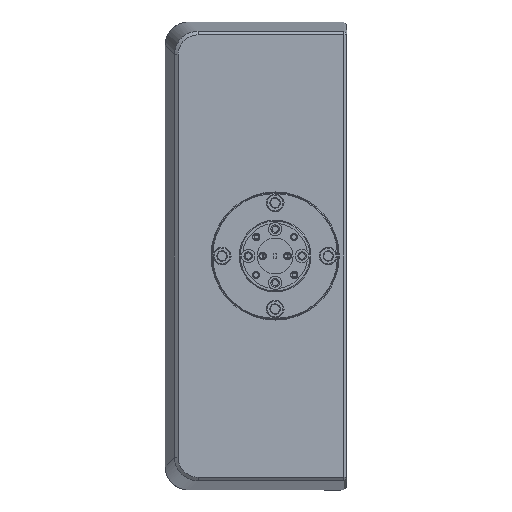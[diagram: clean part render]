
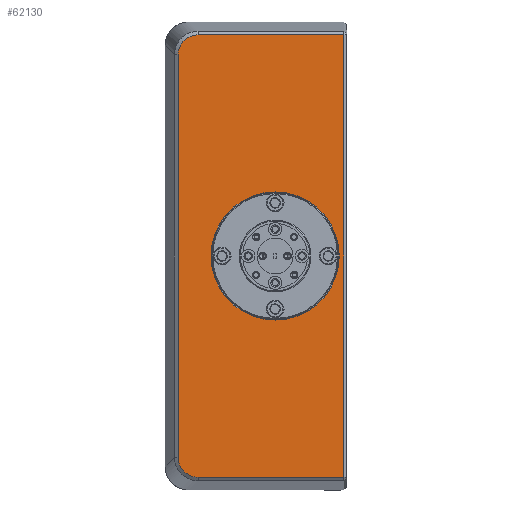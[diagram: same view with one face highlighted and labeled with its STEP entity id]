
A CAD part, left-side view. The second image highlights one B-rep face of the part: STEP entity #62130.
In plain terms, the highlighted planar face has unit normal (-1, 0, 0).
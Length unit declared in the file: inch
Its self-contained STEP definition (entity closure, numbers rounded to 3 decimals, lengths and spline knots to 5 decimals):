
#1528 = ORIENTED_EDGE ( 'NONE', *, *, #20433, .T. ) ;
#2194 = ORIENTED_EDGE ( 'NONE', *, *, #17180, .F. ) ;
#2497 = DIRECTION ( 'NONE',  ( 0., 0., -1. ) ) ;
#3771 = EDGE_CURVE ( 'NONE', #33161, #36212, #68016, .T. ) ;
#3783 = EDGE_LOOP ( 'NONE', ( #46963, #1528, #35534, #49895, #33145, #64294 ) ) ;
#5464 = CARTESIAN_POINT ( 'NONE',  ( -2.75, -0.67171, 2.15839 ) ) ;
#5545 = ORIENTED_EDGE ( 'NONE', *, *, #32465, .F. ) ;
#6015 = DIRECTION ( 'NONE',  ( 0., 0., 1. ) ) ;
#6977 = FACE_OUTER_BOUND ( 'NONE', #3783, .T. ) ;
#8234 = CIRCLE ( 'NONE', #32714, 0.67 ) ;
#9232 = DIRECTION ( 'NONE',  ( 0., 0., 1. ) ) ;
#9819 = VECTOR ( 'NONE', #69074, 39.37008 ) ;
#11678 = CARTESIAN_POINT ( 'NONE',  ( -2.75, -0.69252, 2.20886 ) ) ;
#11692 = VERTEX_POINT ( 'NONE', #54872 ) ;
#13252 = CARTESIAN_POINT ( 'NONE',  ( -2.75, -0.70801, -2.2321 ) ) ;
#14622 = AXIS2_PLACEMENT_3D ( 'NONE', #21149, #19690, #42759 ) ;
#15174 = EDGE_CURVE ( 'NONE', #11692, #23232, #66455, .T. ) ;
#17141 = CARTESIAN_POINT ( 'NONE',  ( -2.75, -0.66628, 2.1034 ) ) ;
#17180 = EDGE_CURVE ( 'NONE', #63260, #47937, #8234, .T. ) ;
#17262 = VERTEX_POINT ( 'NONE', #37732 ) ;
#18911 = CARTESIAN_POINT ( 'NONE',  ( -2.75, -0.66628, 0. ) ) ;
#19325 = FACE_BOUND ( 'NONE', #35900, .T. ) ;
#19690 = DIRECTION ( 'NONE',  ( 1., 0., 0. ) ) ;
#20433 = EDGE_CURVE ( 'NONE', #23232, #49898, #53374, .T. ) ;
#21149 = CARTESIAN_POINT ( 'NONE',  ( -2.75, -1.48136, 0. ) ) ;
#21346 = VECTOR ( 'NONE', #45557, 39.37008 ) ;
#22129 = CARTESIAN_POINT ( 'NONE',  ( -2.75, -2.40136, -2.31232 ) ) ;
#23232 = VERTEX_POINT ( 'NONE', #42683 ) ;
#23287 = CARTESIAN_POINT ( 'NONE',  ( -2.75, -1.48136, 2.31232 ) ) ;
#23843 = CARTESIAN_POINT ( 'NONE',  ( -2.75, -0.67172, -2.15839 ) ) ;
#24667 = CARTESIAN_POINT ( 'NONE',  ( -2.75, -0.8752, 2.31232 ) ) ;
#24935 = CARTESIAN_POINT ( 'NONE',  ( -2.75, -0.8752, -2.31232 ) ) ;
#25289 = DIRECTION ( 'NONE',  ( 0., -1., 0. ) ) ;
#27022 = CARTESIAN_POINT ( 'NONE',  ( -2.75, -0.84772, 2.31233 ) ) ;
#27733 = CARTESIAN_POINT ( 'NONE',  ( -2.75, -0.74651, 2.2706 ) ) ;
#27927 = CARTESIAN_POINT ( 'NONE',  ( -2.75, -1.68136, 0. ) ) ;
#30246 = CARTESIAN_POINT ( 'NONE',  ( -2.75, -2.40136, 2.31232 ) ) ;
#31043 = VECTOR ( 'NONE', #2497, 39.37008 ) ;
#32465 = EDGE_CURVE ( 'NONE', #47937, #63260, #35054, .T. ) ;
#32484 = CARTESIAN_POINT ( 'NONE',  ( -2.75, -0.8752, 2.31232 ) ) ;
#32714 = AXIS2_PLACEMENT_3D ( 'NONE', #68970, #38078, #9232 ) ;
#33145 = ORIENTED_EDGE ( 'NONE', *, *, #53398, .T. ) ;
#33161 = VERTEX_POINT ( 'NONE', #30246 ) ;
#35054 = CIRCLE ( 'NONE', #44446, 0.67 ) ;
#35534 = ORIENTED_EDGE ( 'NONE', *, *, #45616, .T. ) ;
#35847 = CARTESIAN_POINT ( 'NONE',  ( -2.75, -0.82021, -2.30689 ) ) ;
#35900 = EDGE_LOOP ( 'NONE', ( #5545, #2194 ) ) ;
#36212 = VERTEX_POINT ( 'NONE', #24667 ) ;
#37732 = CARTESIAN_POINT ( 'NONE',  ( -2.75, -0.66628, 2.1034 ) ) ;
#38078 = DIRECTION ( 'NONE',  ( -1., 0., 0. ) ) ;
#40135 = B_SPLINE_CURVE_WITH_KNOTS ( 'NONE', 3,
 ( #32484, #27022, #65586, #61225, #27733, #62290, #11678, #5464, #55447, #17141 ),
 .UNSPECIFIED., .F., .F.,
 ( 4, 2, 2, 2, 4 ),
 ( 0., 0.25, 0.5, 0.75, 1. ),
 .UNSPECIFIED. ) ;
#40261 = CARTESIAN_POINT ( 'NONE',  ( -2.75, -1.68136, 0.67 ) ) ;
#41149 = CARTESIAN_POINT ( 'NONE',  ( -2.75, -2.40136, 0. ) ) ;
#41382 = CARTESIAN_POINT ( 'NONE',  ( -2.75, -0.69251, -2.20886 ) ) ;
#41654 = PLANE ( 'NONE',  #14622 ) ;
#42104 = CARTESIAN_POINT ( 'NONE',  ( -2.75, -0.76974, -2.28609 ) ) ;
#42683 = CARTESIAN_POINT ( 'NONE',  ( -2.75, -0.8752, -2.31232 ) ) ;
#42759 = DIRECTION ( 'NONE',  ( 0., 0., -1. ) ) ;
#44030 = DIRECTION ( 'NONE',  ( -1., 0., 0. ) ) ;
#44446 = AXIS2_PLACEMENT_3D ( 'NONE', #27927, #44030, #6015 ) ;
#45557 = DIRECTION ( 'NONE',  ( 0., 1., 0. ) ) ;
#45616 = EDGE_CURVE ( 'NONE', #49898, #33161, #57835, .T. ) ;
#46105 = CARTESIAN_POINT ( 'NONE',  ( -2.75, -0.84766, -2.31233 ) ) ;
#46963 = ORIENTED_EDGE ( 'NONE', *, *, #15174, .T. ) ;
#47548 = CARTESIAN_POINT ( 'NONE',  ( -2.75, -1.48136, -2.31232 ) ) ;
#47937 = VERTEX_POINT ( 'NONE', #40261 ) ;
#49895 = ORIENTED_EDGE ( 'NONE', *, *, #3771, .T. ) ;
#49898 = VERTEX_POINT ( 'NONE', #22129 ) ;
#50057 = CARTESIAN_POINT ( 'NONE',  ( -2.75, -1.68136, -0.67 ) ) ;
#51981 = CARTESIAN_POINT ( 'NONE',  ( -2.75, -0.7465, -2.27061 ) ) ;
#52560 = LINE ( 'NONE', #18911, #31043 ) ;
#53374 = LINE ( 'NONE', #47548, #56571 ) ;
#53398 = EDGE_CURVE ( 'NONE', #36212, #17262, #40135, .T. ) ;
#54872 = CARTESIAN_POINT ( 'NONE',  ( -2.75, -0.66628, -2.1034 ) ) ;
#55447 = CARTESIAN_POINT ( 'NONE',  ( -2.75, -0.66628, 2.13095 ) ) ;
#56571 = VECTOR ( 'NONE', #25289, 39.37008 ) ;
#57835 = LINE ( 'NONE', #41149, #9819 ) ;
#58423 = CARTESIAN_POINT ( 'NONE',  ( -2.75, -0.66628, -2.13089 ) ) ;
#61225 = CARTESIAN_POINT ( 'NONE',  ( -2.75, -0.76974, 2.28609 ) ) ;
#62130 = ADVANCED_FACE ( 'NONE', ( #6977, #19325 ), #41654, .F. ) ;
#62290 = CARTESIAN_POINT ( 'NONE',  ( -2.75, -0.708, 2.2321 ) ) ;
#63260 = VERTEX_POINT ( 'NONE', #50057 ) ;
#64294 = ORIENTED_EDGE ( 'NONE', *, *, #71516, .T. ) ;
#65586 = CARTESIAN_POINT ( 'NONE',  ( -2.75, -0.82022, 2.30689 ) ) ;
#66455 = B_SPLINE_CURVE_WITH_KNOTS ( 'NONE', 3,
 ( #69671, #58423, #23843, #41382, #13252, #51981, #42104, #35847, #46105, #24935 ),
 .UNSPECIFIED., .F., .F.,
 ( 4, 2, 2, 2, 4 ),
 ( 0., 0.25, 0.5, 0.75, 1. ),
 .UNSPECIFIED. ) ;
#68016 = LINE ( 'NONE', #23287, #21346 ) ;
#68970 = CARTESIAN_POINT ( 'NONE',  ( -2.75, -1.68136, 0. ) ) ;
#69074 = DIRECTION ( 'NONE',  ( 0., 0., 1. ) ) ;
#69671 = CARTESIAN_POINT ( 'NONE',  ( -2.75, -0.66628, -2.1034 ) ) ;
#71516 = EDGE_CURVE ( 'NONE', #17262, #11692, #52560, .T. ) ;
